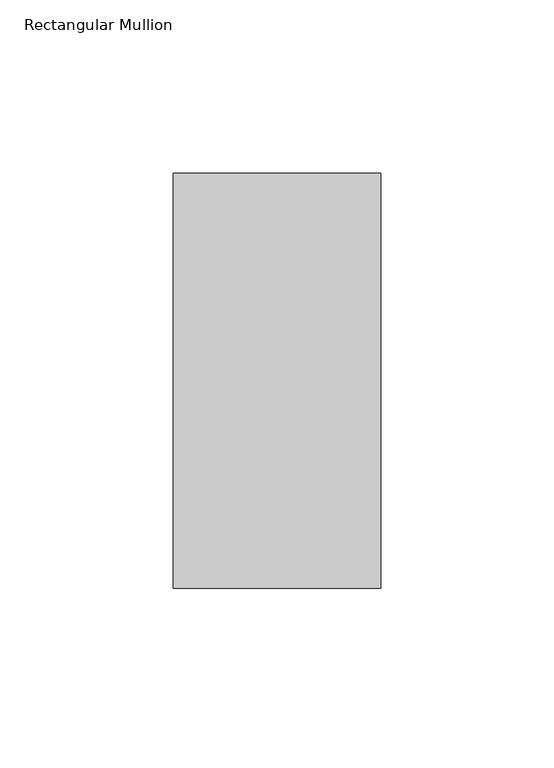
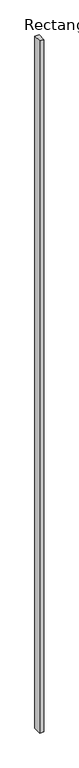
"""IFC4 building model written with IfcOpenShell, lengths in millimetres: member geometry, Rectangular Mullion : Terça."""

import ifcopenshell
import ifcopenshell.guid

model = None  # the IFC model being written
_history = None  # IfcOwnerHistory: only IFC2X3 demands one
_inside = {}  # id of a spatial element -> (the spatial element, [elements in it])
_under = {}  # id of a project, library or spatial element -> (it, [spatial elements below it])
_declared = {}  # id of a project -> (the project, [libraries it declares])
_typed = {}  # id of a type object -> (the type object, [elements of that type])
_made_of = {}  # id of a material, layer set ... -> (it, [elements and type objects made of it])


def new_model(schema):
    """Start an empty IFC model of exactly this schema.

    Asked for "IFC4X3", IfcOpenShell would pick the latest addendum, in which some entities
    have other attributes; the version numbers below select the first issue.
    IFC2X3 requires an IfcOwnerHistory on every rooted entity: one is made here for all.
    """
    global model, _history
    if schema == "IFC4X3":
        model = ifcopenshell.file(schema_version=(4, 3, 0, 0))
    else:
        model = ifcopenshell.file(schema=schema)
    _inside.clear()
    _under.clear()
    _declared.clear()
    _typed.clear()
    _made_of.clear()
    _history = None
    if model.schema == "IFC2X3":
        org = make("IfcOrganization", Name="unknown")
        user = make(
            "IfcPersonAndOrganization",
            ThePerson=make("IfcPerson", FamilyName="unknown"),
            TheOrganization=org,
        )
        app = make(
            "IfcApplication",
            ApplicationDeveloper=org,
            Version="unknown",
            ApplicationFullName="unknown",
            ApplicationIdentifier="unknown",
        )
        _history = make(
            "IfcOwnerHistory",
            OwningUser=user,
            OwningApplication=app,
            ChangeAction="ADDED",
            CreationDate=0,
        )
    return model


def make(cls, **values):
    """One entity of the class cls with the attributes given. An attribute that is None is left unset."""
    return model.create_entity(
        cls, **{name: value for name, value in values.items() if value is not None}
    )


def rooted(cls, **values):
    """An entity with a GlobalId (a new one), such as an element, a storey or a relation."""
    return make(cls, GlobalId=ifcopenshell.guid.new(), OwnerHistory=_history, **values)


def si_unit(unit_type, name, prefix=None):
    """IfcSIUnit, for example si_unit("LENGTHUNIT", "METRE", prefix="MILLI")."""
    return make("IfcSIUnit", UnitType=unit_type, Prefix=prefix, Name=name)


def assignment(units):
    """IfcUnitAssignment: the units of a project."""
    return None if units is None else make("IfcUnitAssignment", Units=units)


def point(xyz):
    """IfcCartesianPoint."""
    return None if xyz is None else make("IfcCartesianPoint", Coordinates=xyz)


def direction(xyz):
    """IfcDirection."""
    return None if xyz is None else make("IfcDirection", DirectionRatios=xyz)


def frame(location, z_axis=None, x_axis=None):
    """IfcAxis2Placement3D, a coordinate frame: its origin and axes. An axis left out is left unset."""
    return make(
        "IfcAxis2Placement3D",
        Location=point(location),
        Axis=direction(z_axis),
        RefDirection=direction(x_axis),
    )


def origin():
    """The frame at (0, 0, 0) with its axes left unset."""
    return frame((0.0, 0.0, 0.0))


def place(relative_to, where):
    """IfcLocalPlacement: puts the frame where relative to a parent placement (None: the world)."""
    return make(
        "IfcLocalPlacement", PlacementRelTo=relative_to, RelativePlacement=where
    )


def context(
    kind, dimensions, precision=None, world=None, true_north=None, identifier=None
):
    """IfcGeometricRepresentationContext, for example the 3D "Model" context."""
    return make(
        "IfcGeometricRepresentationContext",
        ContextIdentifier=identifier,
        ContextType=kind,
        CoordinateSpaceDimension=dimensions,
        Precision=precision,
        WorldCoordinateSystem=world,
        TrueNorth=true_north,
    )


def project(units=None, contexts=None):
    """IfcProject with its units and contexts."""
    return rooted(
        "IfcProject",
        Name="project",
        RepresentationContexts=contexts,
        UnitsInContext=assignment(units),
    )


def spatial(cls, under=None, at=None, **own):
    """A site, building, storey or space (cls), placed at a placement, below another one or the project."""
    s = rooted(cls, ObjectPlacement=at, **own)
    if under is not None:
        _under.setdefault(under.id(), (under, []))[1].append(s)
    return s


def polyline(points):
    """IfcPolyline through the points."""
    return make("IfcPolyline", Points=[point(p) for p in points])


def outline(outer, holes=None, kind="AREA"):
    """IfcArbitraryClosedProfileDef: a profile drawn as a closed curve; with holes, ...WithVoids."""
    if holes is None:
        return make("IfcArbitraryClosedProfileDef", ProfileType=kind, OuterCurve=outer)
    return make(
        "IfcArbitraryProfileDefWithVoids",
        ProfileType=kind,
        OuterCurve=outer,
        InnerCurves=holes,
    )


def extrude(swept, where, along, depth):
    """IfcExtrudedAreaSolid: the profile swept, set in the frame where, extruded along a direction by depth."""
    return make(
        "IfcExtrudedAreaSolid",
        SweptArea=swept,
        Position=where,
        ExtrudedDirection=direction(along),
        Depth=depth,
    )


def shape(context_of_items, identifier, shape_type, items):
    """IfcShapeRepresentation: the items that make up one representation, for example the "Body"."""
    return make(
        "IfcShapeRepresentation",
        ContextOfItems=context_of_items,
        RepresentationIdentifier=identifier,
        RepresentationType=shape_type,
        Items=items,
    )


def source(mapping_origin, context_of_items, identifier, shape_type, items):
    """IfcRepresentationMap: a shape defined once, which mapped items show again and again."""
    return make(
        "IfcRepresentationMap",
        MappingOrigin=mapping_origin,
        MappedRepresentation=shape(context_of_items, identifier, shape_type, items),
    )


def transform(
    local_origin,
    x_axis=None,
    y_axis=None,
    z_axis=None,
    scale=None,
    scale2=None,
    scale3=None,
    uniform=True,
):
    """IfcCartesianTransformationOperator3D, or its non-uniform kind. x_axis, y_axis, z_axis: its Axis1, 2, 3."""
    if uniform:
        return make(
            "IfcCartesianTransformationOperator3D",
            Axis1=direction(x_axis),
            Axis2=direction(y_axis),
            LocalOrigin=point(local_origin),
            Scale=scale,
            Axis3=direction(z_axis),
        )
    return make(
        "IfcCartesianTransformationOperator3DnonUniform",
        Axis1=direction(x_axis),
        Axis2=direction(y_axis),
        LocalOrigin=point(local_origin),
        Scale=scale,
        Axis3=direction(z_axis),
        Scale2=scale2,
        Scale3=scale3,
    )


def mapped(mapping_source, mapping_target):
    """IfcMappedItem: shows the shape of a source again, moved by a transform."""
    return make(
        "IfcMappedItem", MappingSource=mapping_source, MappingTarget=mapping_target
    )


def made_of(thing, what):
    """Note that an element or type object is made of a material, layer set ...; save() writes the relation."""
    if what is not None:
        _made_of.setdefault(what.id(), (what, []))[1].append(thing)
    return thing


def element(
    cls,
    number,
    at=None,
    inside=None,
    cuts=None,
    type_object=None,
    material=None,
    context=None,
    identifier="Body",
    shape_type=None,
    held_by="IfcProductDefinitionShape",
    body=None,
    shapes=None,
    **own,
):
    """One element of the class cls, such as IfcWall. Its Tag is "e" and its number.

    at: its placement. inside: the storey or other place that contains it. cuts: it is an
    opening in that element (IfcRelVoidsElement). A single representation is given by context,
    identifier, shape_type and body (its items); several are given by shapes. held_by: the class
    of the entity that holds the representations. save() writes the other relations.
    """
    e = rooted(cls, Tag="e%d" % number, ObjectPlacement=at, **own)
    if body is not None:
        shapes = [shape(context, identifier, shape_type, body)]
    if shapes is not None:
        e.Representation = make(held_by, Representations=shapes)
    if inside is not None:
        _inside.setdefault(inside.id(), (inside, []))[1].append(e)
    if cuts is not None:
        rooted(
            "IfcRelVoidsElement", RelatingBuildingElement=cuts, RelatedOpeningElement=e
        )
    if type_object is not None:
        _typed.setdefault(type_object.id(), (type_object, []))[1].append(e)
    return made_of(e, material)


def aggregate(whole, parts):
    """IfcRelAggregates: a whole, such as a stair, and the parts it consists of."""
    return rooted("IfcRelAggregates", RelatingObject=whole, RelatedObjects=parts)


def save(model, path):
    """Write the relations noted so far, then the file.

    IfcRelAggregates (storeys below a building ...), IfcRelContainedInSpatialStructure (elements
    in a storey), IfcRelDefinesByType, IfcRelAssociatesMaterial and IfcRelDeclares: one each for
    every whole, place, type object, material and project.
    """
    for whole, parts in _under.values():
        aggregate(whole, parts)
    for where, things in _inside.values():
        rooted(
            "IfcRelContainedInSpatialStructure",
            RelatedElements=things,
            RelatingStructure=where,
        )
    for kind, things in _typed.values():
        rooted("IfcRelDefinesByType", RelatedObjects=things, RelatingType=kind)
    for what, things in _made_of.values():
        rooted("IfcRelAssociatesMaterial", RelatedObjects=things, RelatingMaterial=what)
    for by, libraries in _declared.values():
        rooted("IfcRelDeclares", RelatingContext=by, RelatedDefinitions=libraries)
    model.write(path)


def rectangular_mullion_a8aa870b(model_context):
    return source(origin(), model_context, "Body", "SweptSolid", [
        extrude(outline(polyline([(30.0, -120.0), (-30.0, -120.0), (-30.0, 0.0), (30.0, 0.0), (30.0, -120.0)])), frame((0.0, 0.0, -10700.006484), z_axis=(0.0, 0.0, 1.0), x_axis=(1.0, 0.0, 0.0)), (0.0, 0.0, 1.0), 10700.006484),
    ])


if __name__ == "__main__":
    model = new_model("IFC4")
    model_context = context("Model", 3, world=origin())
    ifc_project = project(units=[si_unit("LENGTHUNIT", "METRE", prefix="MILLI")], contexts=[model_context])
    site = spatial("IfcSite", under=ifc_project)
    building = spatial("IfcBuilding", under=site)
    placement = place(None, origin())
    rectangular_mullion_shape = rectangular_mullion_a8aa870b(model_context)
    element("IfcMember", 1, ObjectType="Rectangular Mullion : Terça", at=placement, inside=building, context=model_context, shape_type="MappedRepresentation", body=[
        mapped(rectangular_mullion_shape, transform((0.0, 0.0, 0.0), x_axis=(1.0, 0.0, 0.0), y_axis=(0.0, 1.0, 0.0), z_axis=(0.0, 0.0, 1.0))),
    ])
    save(model, "model.ifc")
